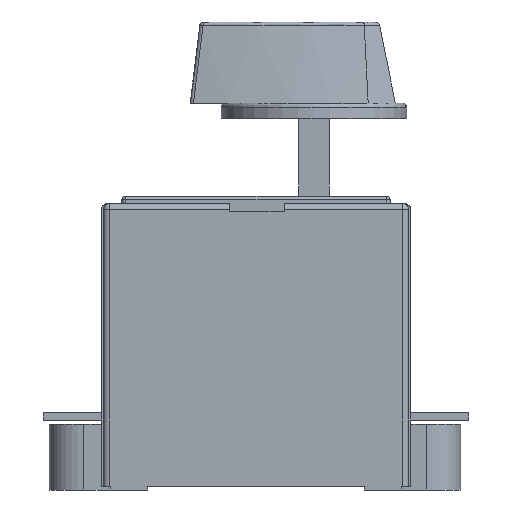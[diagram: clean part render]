
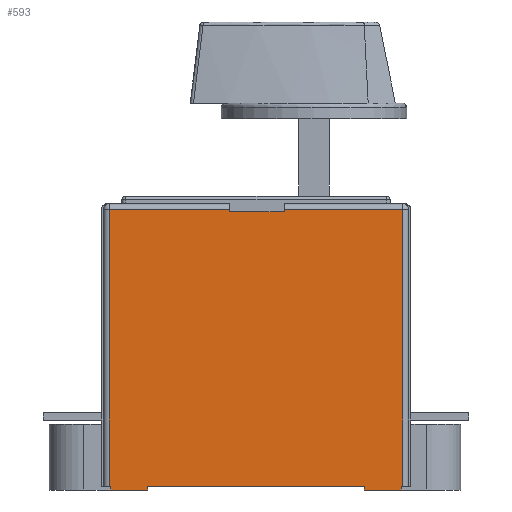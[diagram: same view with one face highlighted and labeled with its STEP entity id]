
A CAD part, left-side view. The second image highlights one B-rep face of the part: STEP entity #593.
In plain terms, the highlighted planar face has unit normal (-1, 0, 0).
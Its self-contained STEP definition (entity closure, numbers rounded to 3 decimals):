
#593=ADVANCED_FACE('',(#1180),#957,.F.);
#957=PLANE('',#6776);
#1180=FACE_OUTER_BOUND('',#1526,.T.);
#1526=EDGE_LOOP('',(#2331,#2332,#2333,#2334,#2335,#2336,#2337,#2338,#2339,
#2340,#2341,#2342,#2343,#2344,#2345,#2346));
#2331=ORIENTED_EDGE('',*,*,#4704,.F.);
#2332=ORIENTED_EDGE('',*,*,#4705,.T.);
#2333=ORIENTED_EDGE('',*,*,#4706,.T.);
#2334=ORIENTED_EDGE('',*,*,#4707,.F.);
#2335=ORIENTED_EDGE('',*,*,#4708,.T.);
#2336=ORIENTED_EDGE('',*,*,#4709,.T.);
#2337=ORIENTED_EDGE('',*,*,#4702,.T.);
#2338=ORIENTED_EDGE('',*,*,#4554,.T.);
#2339=ORIENTED_EDGE('',*,*,#4699,.F.);
#2340=ORIENTED_EDGE('',*,*,#4710,.F.);
#2341=ORIENTED_EDGE('',*,*,#4711,.T.);
#2342=ORIENTED_EDGE('',*,*,#4389,.T.);
#2343=ORIENTED_EDGE('',*,*,#4712,.F.);
#2344=ORIENTED_EDGE('',*,*,#4713,.F.);
#2345=ORIENTED_EDGE('',*,*,#4714,.T.);
#2346=ORIENTED_EDGE('',*,*,#4570,.T.);
#3800=VERTEX_POINT('',#9267);
#3801=VERTEX_POINT('',#9269);
#3957=VERTEX_POINT('',#9612);
#3958=VERTEX_POINT('',#9614);
#3969=VERTEX_POINT('',#9640);
#3972=VERTEX_POINT('',#9646);
#4052=VERTEX_POINT('',#9893);
#4054=VERTEX_POINT('',#9901);
#4055=VERTEX_POINT('',#9905);
#4056=VERTEX_POINT('',#9907);
#4057=VERTEX_POINT('',#9909);
#4058=VERTEX_POINT('',#9911);
#4059=VERTEX_POINT('',#9913);
#4060=VERTEX_POINT('',#9916);
#4061=VERTEX_POINT('',#9919);
#4062=VERTEX_POINT('',#9921);
#4389=EDGE_CURVE('',#3801,#3800,#5331,.T.);
#4554=EDGE_CURVE('',#3958,#3957,#5463,.T.);
#4570=EDGE_CURVE('',#3969,#3972,#5475,.T.);
#4699=EDGE_CURVE('',#4052,#3957,#5589,.T.);
#4702=EDGE_CURVE('',#4054,#3958,#5592,.T.);
#4704=EDGE_CURVE('',#4055,#3972,#5593,.T.);
#4705=EDGE_CURVE('',#4055,#4056,#5594,.T.);
#4706=EDGE_CURVE('',#4056,#4057,#5595,.T.);
#4707=EDGE_CURVE('',#4058,#4057,#5596,.T.);
#4708=EDGE_CURVE('',#4058,#4059,#5597,.T.);
#4709=EDGE_CURVE('',#4059,#4054,#5598,.T.);
#4710=EDGE_CURVE('',#4060,#4052,#5599,.T.);
#4711=EDGE_CURVE('',#4060,#3801,#5600,.T.);
#4712=EDGE_CURVE('',#4061,#3800,#5601,.T.);
#4713=EDGE_CURVE('',#4062,#4061,#5602,.T.);
#4714=EDGE_CURVE('',#4062,#3969,#5603,.T.);
#5331=LINE('',#9268,#6019);
#5463=LINE('',#9613,#6151);
#5475=LINE('',#9647,#6163);
#5589=LINE('',#9894,#6277);
#5592=LINE('',#9900,#6280);
#5593=LINE('',#9904,#6281);
#5594=LINE('',#9906,#6282);
#5595=LINE('',#9908,#6283);
#5596=LINE('',#9910,#6284);
#5597=LINE('',#9912,#6285);
#5598=LINE('',#9914,#6286);
#5599=LINE('',#9915,#6287);
#5600=LINE('',#9917,#6288);
#5601=LINE('',#9918,#6289);
#5602=LINE('',#9920,#6290);
#5603=LINE('',#9922,#6291);
#6019=VECTOR('',#7330,1.);
#6151=VECTOR('',#7574,1.);
#6163=VECTOR('',#7600,1.);
#6277=VECTOR('',#7820,1.);
#6280=VECTOR('',#7827,1.);
#6281=VECTOR('',#7832,1.);
#6282=VECTOR('',#7833,1.);
#6283=VECTOR('',#7834,1.);
#6284=VECTOR('',#7835,1.);
#6285=VECTOR('',#7836,1.);
#6286=VECTOR('',#7837,1.);
#6287=VECTOR('',#7838,1.);
#6288=VECTOR('',#7839,1.);
#6289=VECTOR('',#7840,1.);
#6290=VECTOR('',#7841,1.);
#6291=VECTOR('',#7842,1.);
#6776=AXIS2_PLACEMENT_3D('',#9923,#7843,#7844);
#7330=DIRECTION('',(0.,-1.,0.));
#7574=DIRECTION('',(0.,-1.,0.));
#7600=DIRECTION('',(0.,-1.,0.));
#7820=DIRECTION('',(0.,0.,1.));
#7827=DIRECTION('',(0.,0.,-1.));
#7832=DIRECTION('',(0.,0.,-1.));
#7833=DIRECTION('',(0.,1.,0.));
#7834=DIRECTION('',(0.,0.,-1.));
#7835=DIRECTION('',(0.,-1.,0.));
#7836=DIRECTION('',(0.,0.,1.));
#7837=DIRECTION('',(0.,1.,0.));
#7838=DIRECTION('',(0.,1.,0.));
#7839=DIRECTION('',(0.,0.,1.));
#7840=DIRECTION('',(0.,0.,1.));
#7841=DIRECTION('',(0.,1.,0.));
#7842=DIRECTION('',(0.,0.,1.));
#7843=DIRECTION('',(1.,0.,0.));
#7844=DIRECTION('',(0.,0.,-1.));
#9267=CARTESIAN_POINT('',(-69.,-52.735,-3.9));
#9268=CARTESIAN_POINT('',(-69.,-62.235,-3.9));
#9269=CARTESIAN_POINT('',(-69.,3.265,-3.9));
#9612=CARTESIAN_POINT('',(-69.,12.765,-3.9));
#9613=CARTESIAN_POINT('',(-69.,-62.235,-3.9));
#9614=CARTESIAN_POINT('',(-69.,13.265,-3.9));
#9640=CARTESIAN_POINT('',(-69.,-62.235,-3.9));
#9646=CARTESIAN_POINT('',(-69.,-62.735,-3.9));
#9647=CARTESIAN_POINT('',(-69.,-62.235,-3.9));
#9893=CARTESIAN_POINT('',(-69.,12.765,-4.9));
#9894=CARTESIAN_POINT('',(-69.,12.765,-5.9));
#9900=CARTESIAN_POINT('',(-69.,13.265,69.1));
#9901=CARTESIAN_POINT('',(-69.,13.265,67.6));
#9904=CARTESIAN_POINT('',(-69.,-62.735,69.1));
#9905=CARTESIAN_POINT('',(-69.,-62.735,67.6));
#9906=CARTESIAN_POINT('',(-69.,13.265,67.6));
#9907=CARTESIAN_POINT('',(-69.,-31.985,67.6));
#9908=CARTESIAN_POINT('',(-69.,-31.985,69.1));
#9909=CARTESIAN_POINT('',(-69.,-31.985,67.));
#9910=CARTESIAN_POINT('',(-69.,12.765,67.));
#9911=CARTESIAN_POINT('',(-69.,-17.985,67.));
#9912=CARTESIAN_POINT('',(-69.,-17.985,69.1));
#9913=CARTESIAN_POINT('',(-69.,-17.985,67.6));
#9914=CARTESIAN_POINT('',(-69.,13.265,67.6));
#9915=CARTESIAN_POINT('',(-69.,3.265,-4.9));
#9916=CARTESIAN_POINT('',(-69.,3.265,-4.9));
#9917=CARTESIAN_POINT('',(-69.,3.265,-5.9));
#9918=CARTESIAN_POINT('',(-69.,-52.735,-5.9));
#9919=CARTESIAN_POINT('',(-69.,-52.735,-4.9));
#9920=CARTESIAN_POINT('',(-69.,-62.235,-4.9));
#9921=CARTESIAN_POINT('',(-69.,-62.235,-4.9));
#9922=CARTESIAN_POINT('',(-69.,-62.235,-5.9));
#9923=CARTESIAN_POINT('',(-69.,-62.235,69.1));
